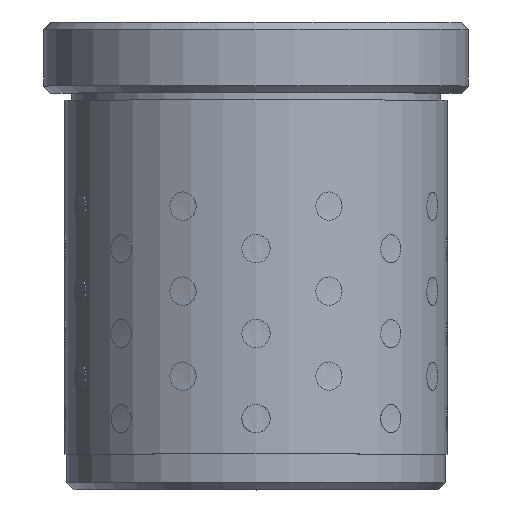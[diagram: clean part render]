
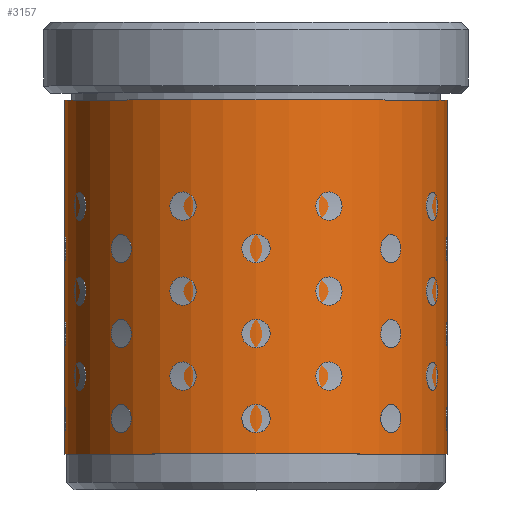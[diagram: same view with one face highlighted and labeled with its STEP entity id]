
A CAD part, top view. The second image highlights one B-rep face of the part: STEP entity #3157.
In plain terms, the highlighted cylindrical face has radius 27 mm (diameter 54 mm), a full revolution.
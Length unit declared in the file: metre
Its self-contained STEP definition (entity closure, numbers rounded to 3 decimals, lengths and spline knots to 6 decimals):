
#3157 = ADVANCED_FACE( '', ( #3382, #3383 ), #3384, .T. );
#3382 = FACE_OUTER_BOUND( '', #3875, .T. );
#3383 = FACE_OUTER_BOUND( '', #3876, .T. );
#3384 = CYLINDRICAL_SURFACE( '', #3877, 0.027 );
#3875 = EDGE_LOOP( '', ( #4384 ) );
#3876 = EDGE_LOOP( '', ( #4385 ) );
#3877 = AXIS2_PLACEMENT_3D( '', #4386, #4387, #4388 );
#4384 = ORIENTED_EDGE( '', *, *, #5260, .T. );
#4385 = ORIENTED_EDGE( '', *, *, #5259, .F. );
#4386 = CARTESIAN_POINT( '', ( 0., 0., 0. ) );
#4387 = DIRECTION( '', ( 0., 1., 0. ) );
#4388 = DIRECTION( '', ( 0., 0., -1. ) );
#5259 = EDGE_CURVE( '', #5410, #5410, #5411, .T. );
#5260 = EDGE_CURVE( '', #5412, #5412, #5413, .T. );
#5410 = VERTEX_POINT( '', #5696 );
#5411 = CIRCLE( '', #5697, 0.027 );
#5412 = VERTEX_POINT( '', #5698 );
#5413 = CIRCLE( '', #5699, 0.027 );
#5696 = CARTESIAN_POINT( '', ( 0., 0.005, -0.027 ) );
#5697 = AXIS2_PLACEMENT_3D( '', #12902, #12903, #12904 );
#5698 = CARTESIAN_POINT( '', ( 0., 0.055, -0.027 ) );
#5699 = AXIS2_PLACEMENT_3D( '', #12905, #12906, #12907 );
#12902 = CARTESIAN_POINT( '', ( 0., 0.005, 0. ) );
#12903 = DIRECTION( '', ( 0., -1., 0. ) );
#12904 = DIRECTION( '', ( 0., 0., -1. ) );
#12905 = CARTESIAN_POINT( '', ( 0., 0.055, 0. ) );
#12906 = DIRECTION( '', ( 0., -1., 0. ) );
#12907 = DIRECTION( '', ( 0., 0., -1. ) );
